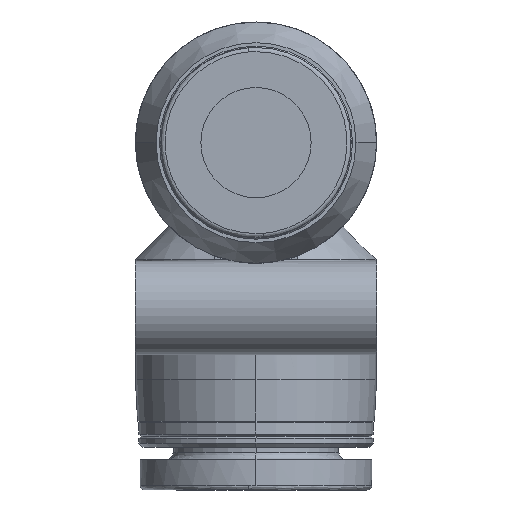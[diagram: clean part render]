
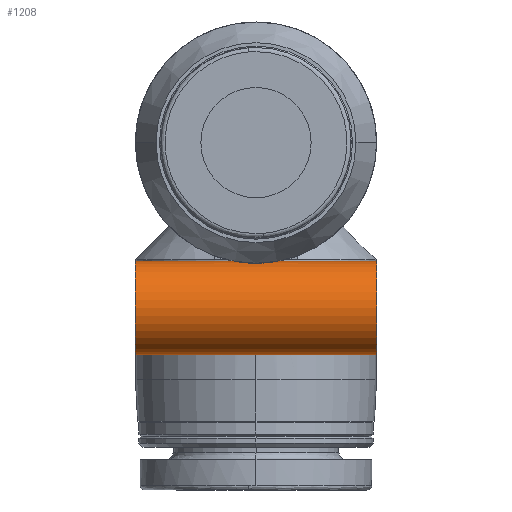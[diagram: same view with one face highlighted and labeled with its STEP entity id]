
A CAD part, left-side view. The second image highlights one B-rep face of the part: STEP entity #1208.
In plain terms, the highlighted cylindrical face has radius 3.4 mm (diameter 6.8 mm), a partial arc.
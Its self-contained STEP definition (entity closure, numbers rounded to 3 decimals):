
#108 = EDGE_LOOP ( 'NONE', ( #2817, #2828, #4103, #4854, #2050, #3081, #3211 ) ) ;
#112 = EDGE_CURVE ( 'NONE', #476, #3741, #3497, .T. ) ;
#172 = DIRECTION ( 'NONE',  ( 0., 1., 0. ) ) ;
#185 = CARTESIAN_POINT ( 'NONE',  ( -12.542, 1.367, -8.643 ) ) ;
#227 = AXIS2_PLACEMENT_3D ( 'NONE', #3158, #1704, #939 ) ;
#372 = VECTOR ( 'NONE', #657, 1000. ) ;
#402 = CIRCLE ( 'NONE', #1902, 3.4 ) ;
#437 = CARTESIAN_POINT ( 'NONE',  ( -12., -8.75, -15.4 ) ) ;
#469 = DIRECTION ( 'NONE',  ( 0., 0., 1. ) ) ;
#476 = VERTEX_POINT ( 'NONE', #2649 ) ;
#532 = CARTESIAN_POINT ( 'NONE',  ( -12., 1.613, -8.6 ) ) ;
#550 = CARTESIAN_POINT ( 'NONE',  ( -12.175, 1.595, -8.604 ) ) ;
#608 = CARTESIAN_POINT ( 'NONE',  ( -12.336, -1.528, -8.616 ) ) ;
#626 = CARTESIAN_POINT ( 'NONE',  ( -12., -8.75, -8.6 ) ) ;
#657 = DIRECTION ( 'NONE',  ( 0., 1., 0. ) ) ;
#799 = CARTESIAN_POINT ( 'NONE',  ( -12.999, 0.175, -8.75 ) ) ;
#812 = B_SPLINE_CURVE_WITH_KNOTS ( 'NONE', 3,
 ( #532, #3194, #550, #2030, #2807, #185, #2786, #2404, #4698, #4338, #1637, #3476, #799, #3093 ),
 .UNSPECIFIED., .F., .F.,
 ( 4, 2, 2, 2, 2, 2, 4 ),
 ( -0.002, -0.002, -0.002, -0.001, -0.001, -0.001, 0. ),
 .UNSPECIFIED. ) ;
#834 = CARTESIAN_POINT ( 'NONE',  ( -12., -8.75, -12. ) ) ;
#847 = EDGE_CURVE ( 'NONE', #2049, #4341, #402, .T. ) ;
#896 = LINE ( 'NONE', #1365, #2929 ) ;
#923 = CARTESIAN_POINT ( 'NONE',  ( -12., -1.613, -8.6 ) ) ;
#939 = DIRECTION ( 'NONE',  ( 0., 0., 1. ) ) ;
#961 = FACE_OUTER_BOUND ( 'NONE', #108, .T. ) ;
#1052 = CARTESIAN_POINT ( 'NONE',  ( -12.088, -1.613, -8.6 ) ) ;
#1053 = AXIS2_PLACEMENT_3D ( 'NONE', #834, #3124, #469 ) ;
#1208 = ADVANCED_FACE ( '53', ( #961 ), #3869, .T. ) ;
#1300 = CARTESIAN_POINT ( 'NONE',  ( -12., 8.75, -8.6 ) ) ;
#1355 = VECTOR ( 'NONE', #172, 1000. ) ;
#1365 = CARTESIAN_POINT ( 'NONE',  ( -12., -8.75, -8.6 ) ) ;
#1523 = EDGE_CURVE ( 'NONE', #3246, #2049, #896, .T. ) ;
#1637 = CARTESIAN_POINT ( 'NONE',  ( -12.912, 0.689, -8.724 ) ) ;
#1680 = DIRECTION ( 'NONE',  ( 0., 1., 0. ) ) ;
#1704 = DIRECTION ( 'NONE',  ( 0., 1., 0. ) ) ;
#1902 = AXIS2_PLACEMENT_3D ( 'NONE', #3196, #2999, #3769 ) ;
#1946 = EDGE_CURVE ( 'NONE', #2941, #4341, #3408, .T. ) ;
#2030 = CARTESIAN_POINT ( 'NONE',  ( -12.336, 1.528, -8.616 ) ) ;
#2049 = VERTEX_POINT ( 'NONE', #1300 ) ;
#2050 = ORIENTED_EDGE ( 'NONE', *, *, #2588, .F. ) ;
#2072 = CARTESIAN_POINT ( 'NONE',  ( -12., -8.75, -15.4 ) ) ;
#2275 = EDGE_CURVE ( 'NONE', #3247, #3741, #3484, .T. ) ;
#2404 = CARTESIAN_POINT ( 'NONE',  ( -12.702, 1.162, -8.673 ) ) ;
#2588 = EDGE_CURVE ( 'NONE', #3246, #3247, #812, .T. ) ;
#2649 = CARTESIAN_POINT ( 'NONE',  ( -12., -8.75, -8.6 ) ) ;
#2716 = EDGE_CURVE ( 'NONE', #2941, #476, #3921, .T. ) ;
#2786 = CARTESIAN_POINT ( 'NONE',  ( -12.6, 1.301, -8.653 ) ) ;
#2807 = CARTESIAN_POINT ( 'NONE',  ( -12.41, 1.48, -8.624 ) ) ;
#2817 = ORIENTED_EDGE ( 'NONE', *, *, #1946, .F. ) ;
#2828 = ORIENTED_EDGE ( 'NONE', *, *, #2716, .T. ) ;
#2929 = VECTOR ( 'NONE', #1680, 1000. ) ;
#2941 = VERTEX_POINT ( 'NONE', #2072 ) ;
#2999 = DIRECTION ( 'NONE',  ( 0., -1., 0. ) ) ;
#3081 = ORIENTED_EDGE ( 'NONE', *, *, #1523, .T. ) ;
#3093 = CARTESIAN_POINT ( 'NONE',  ( -12.999, 0., -8.75 ) ) ;
#3124 = DIRECTION ( 'NONE',  ( 0., 1., 0. ) ) ;
#3158 = CARTESIAN_POINT ( 'NONE',  ( -12., -8.75, -12. ) ) ;
#3194 = CARTESIAN_POINT ( 'NONE',  ( -12.087, 1.613, -8.6 ) ) ;
#3196 = CARTESIAN_POINT ( 'NONE',  ( -12., 8.75, -12. ) ) ;
#3208 = CARTESIAN_POINT ( 'NONE',  ( -12.999, 0., -8.75 ) ) ;
#3211 = ORIENTED_EDGE ( 'NONE', *, *, #847, .T. ) ;
#3246 = VERTEX_POINT ( 'NONE', #3307 ) ;
#3247 = VERTEX_POINT ( 'NONE', #3208 ) ;
#3307 = CARTESIAN_POINT ( 'NONE',  ( -12., 1.613, -8.6 ) ) ;
#3408 = LINE ( 'NONE', #437, #1355 ) ;
#3409 = CARTESIAN_POINT ( 'NONE',  ( -12., -1.613, -8.6 ) ) ;
#3476 = CARTESIAN_POINT ( 'NONE',  ( -12.982, 0.349, -8.745 ) ) ;
#3484 = B_SPLINE_CURVE_WITH_KNOTS ( 'NONE', 3,
 ( #4618, #4511, #3618, #4758, #4764, #4775, #4782, #4810, #608, #4879, #1052, #923 ),
 .UNSPECIFIED., .F., .F.,
 ( 4, 2, 2, 2, 2, 4 ),
 ( 0., 0.001, 0.001, 0.002, 0.002, 0.002 ),
 .UNSPECIFIED. ) ;
#3497 = LINE ( 'NONE', #626, #372 ) ;
#3511 = CARTESIAN_POINT ( 'NONE',  ( -12., 8.75, -15.4 ) ) ;
#3618 = CARTESIAN_POINT ( 'NONE',  ( -12.982, -0.347, -8.745 ) ) ;
#3741 = VERTEX_POINT ( 'NONE', #3409 ) ;
#3769 = DIRECTION ( 'NONE',  ( 0., 0., 1. ) ) ;
#3869 = CYLINDRICAL_SURFACE ( 'NONE', #227, 3.4 ) ;
#3921 = CIRCLE ( 'NONE', #1053, 3.4 ) ;
#4103 = ORIENTED_EDGE ( 'NONE', *, *, #112, .T. ) ;
#4338 = CARTESIAN_POINT ( 'NONE',  ( -12.86, 0.853, -8.71 ) ) ;
#4341 = VERTEX_POINT ( 'NONE', #3511 ) ;
#4511 = CARTESIAN_POINT ( 'NONE',  ( -12.999, -0.175, -8.75 ) ) ;
#4618 = CARTESIAN_POINT ( 'NONE',  ( -12.999, 0., -8.75 ) ) ;
#4698 = CARTESIAN_POINT ( 'NONE',  ( -12.746, 1.088, -8.683 ) ) ;
#4758 = CARTESIAN_POINT ( 'NONE',  ( -12.914, -0.684, -8.725 ) ) ;
#4764 = CARTESIAN_POINT ( 'NONE',  ( -12.861, -0.852, -8.71 ) ) ;
#4775 = CARTESIAN_POINT ( 'NONE',  ( -12.708, -1.164, -8.674 ) ) ;
#4782 = CARTESIAN_POINT ( 'NONE',  ( -12.608, -1.31, -8.652 ) ) ;
#4810 = CARTESIAN_POINT ( 'NONE',  ( -12.41, -1.48, -8.624 ) ) ;
#4854 = ORIENTED_EDGE ( 'NONE', *, *, #2275, .F. ) ;
#4879 = CARTESIAN_POINT ( 'NONE',  ( -12.174, -1.595, -8.604 ) ) ;
